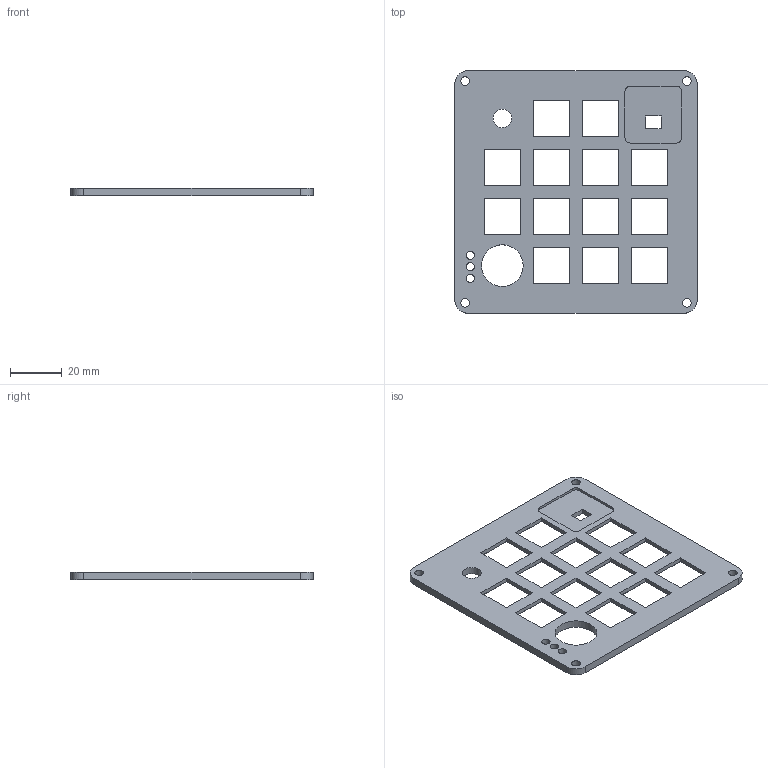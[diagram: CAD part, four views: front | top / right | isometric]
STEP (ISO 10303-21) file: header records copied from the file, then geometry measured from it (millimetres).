
FILE_DESCRIPTION(('Open CASCADE Model'),'2;1');
FILE_NAME('Open CASCADE Shape Model','2026-09-06T14:27:59',('Author'),( 'Open CASCADE'),'Open CASCADE STEP processor 7.9','Open CASCADE 7.9' ,'Unknown');
FILE_SCHEMA(('AUTOMOTIVE_DESIGN { 1 0 10303 214 1 1 1 1 }'));
Length unit declared in the file: millimetre
Products named in the file (1): Open CASCADE STEP translator 7.9 2
Bounding box: 94 x 94 x 3 mm (x, y, z)
Volume: 15698.9 mm3; surface area: 15868 mm2
Topology: 1 solids, 1 shells, 154 faces, 411 edges, 274 vertices
Faces by surface type: plane 137, cylinder 17
Full cylindrical faces by diameter (mm): 3.2 x3, 3.4 x4, 7.2 x1, 16.2 x1
Entity records: 9902 total; most frequent: CARTESIAN_POINT 2150, DIRECTION 1209, ORIENTED_EDGE 822, PCURVE 822, DEFINITIONAL_REPRESENTATION 822, LINE 821, VECTOR 821, EDGE_CURVE 411
